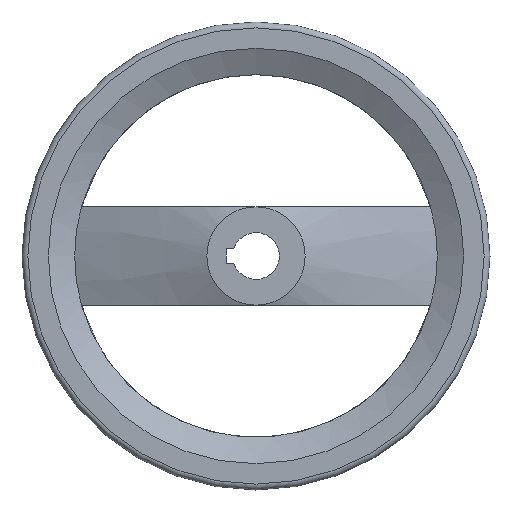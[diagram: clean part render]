
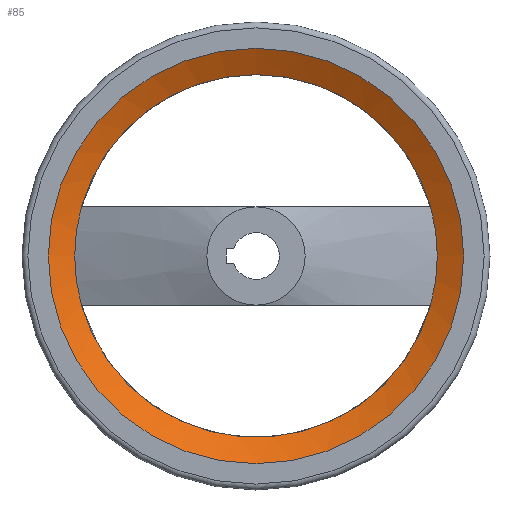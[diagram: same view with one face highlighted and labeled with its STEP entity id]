
A CAD part, left-side view. The second image highlights one B-rep face of the part: STEP entity #85.
In plain terms, the highlighted conical face has half-angle 62.129 degrees and reference radius 77.5 mm.
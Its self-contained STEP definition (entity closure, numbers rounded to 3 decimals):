
#85 = ADVANCED_FACE( '', ( #122, #123 ), #124, .F. );
#122 = FACE_OUTER_BOUND( '', #178, .T. );
#123 = FACE_BOUND( '', #179, .T. );
#124 = CONICAL_SURFACE( '', #180, 77.5, 1.084 );
#178 = EDGE_LOOP( '', ( #282 ) );
#179 = EDGE_LOOP( '', ( #283, #284, #285, #286 ) );
#180 = AXIS2_PLACEMENT_3D( '', #287, #288, #289 );
#282 = ORIENTED_EDGE( '', *, *, #388, .T. );
#283 = ORIENTED_EDGE( '', *, *, #389, .F. );
#284 = ORIENTED_EDGE( '', *, *, #390, .T. );
#285 = ORIENTED_EDGE( '', *, *, #391, .F. );
#286 = ORIENTED_EDGE( '', *, *, #392, .T. );
#287 = CARTESIAN_POINT( '', ( 30.449, 0., 0. ) );
#288 = DIRECTION( '', ( -1., 0., 0. ) );
#289 = DIRECTION( '', ( 0., 0., 1. ) );
#388 = EDGE_CURVE( '', #450, #450, #451, .T. );
#389 = EDGE_CURVE( '', #452, #406, #453, .T. );
#390 = EDGE_CURVE( '', #452, #454, #455, .F. );
#391 = EDGE_CURVE( '', #412, #454, #456, .T. );
#392 = EDGE_CURVE( '', #412, #406, #457, .F. );
#406 = VERTEX_POINT( '', #478 );
#412 = VERTEX_POINT( '', #521 );
#450 = VERTEX_POINT( '', #631 );
#451 = CIRCLE( '', #632, 88.75 );
#452 = VERTEX_POINT( '', #633 );
#453 = CIRCLE( '', #634, 77.5 );
#454 = VERTEX_POINT( '', #635 );
#455 = CIRCLE( '', #636, 77.5 );
#456 = CIRCLE( '', #637, 77.5 );
#457 = CIRCLE( '', #638, 77.5 );
#478 = CARTESIAN_POINT( '', ( 30.449, -74.601, 21. ) );
#521 = CARTESIAN_POINT( '', ( 30.449, 74.601, 21. ) );
#631 = CARTESIAN_POINT( '', ( 24.5, 0., 88.75 ) );
#632 = AXIS2_PLACEMENT_3D( '', #758, #759, #760 );
#633 = CARTESIAN_POINT( '', ( 30.449, -74.601, -21. ) );
#634 = AXIS2_PLACEMENT_3D( '', #761, #762, #763 );
#635 = CARTESIAN_POINT( '', ( 30.449, 74.601, -21. ) );
#636 = AXIS2_PLACEMENT_3D( '', #764, #765, #766 );
#637 = AXIS2_PLACEMENT_3D( '', #767, #768, #769 );
#638 = AXIS2_PLACEMENT_3D( '', #770, #771, #772 );
#758 = CARTESIAN_POINT( '', ( 24.5, 0., 0. ) );
#759 = DIRECTION( '', ( -1., 0., 0. ) );
#760 = DIRECTION( '', ( 0., 0., 1. ) );
#761 = CARTESIAN_POINT( '', ( 30.449, 0., 0. ) );
#762 = DIRECTION( '', ( -1., 0., 0. ) );
#763 = DIRECTION( '', ( 0., 0., 1. ) );
#764 = CARTESIAN_POINT( '', ( 30.449, 0., 0. ) );
#765 = DIRECTION( '', ( -1., 0., 0. ) );
#766 = DIRECTION( '', ( 0., 0., 1. ) );
#767 = CARTESIAN_POINT( '', ( 30.449, 0., 0. ) );
#768 = DIRECTION( '', ( -1., 0., 0. ) );
#769 = DIRECTION( '', ( 0., 0., 1. ) );
#770 = CARTESIAN_POINT( '', ( 30.449, 0., 0. ) );
#771 = DIRECTION( '', ( -1., 0., 0. ) );
#772 = DIRECTION( '', ( 0., 0., 1. ) );
